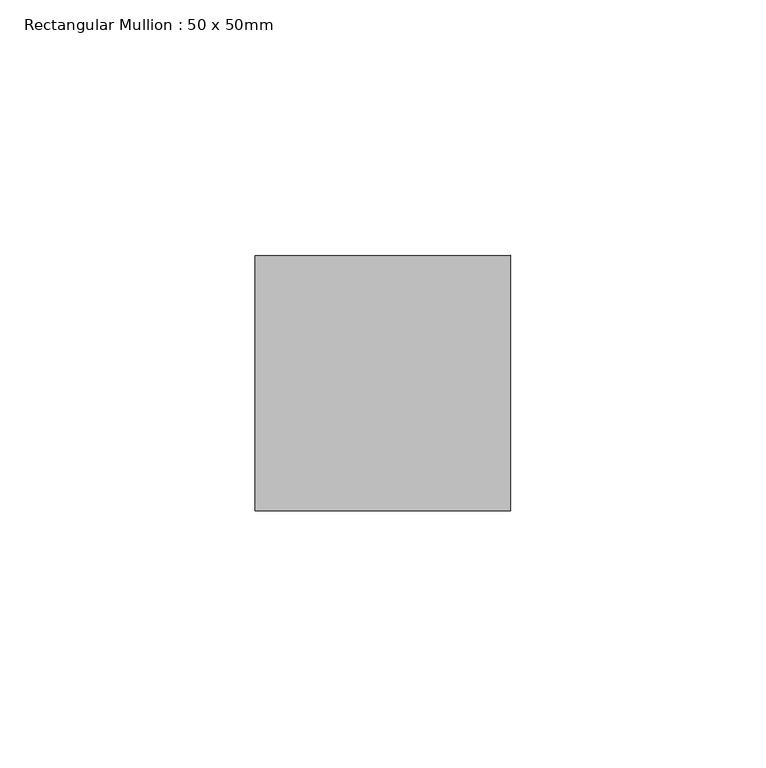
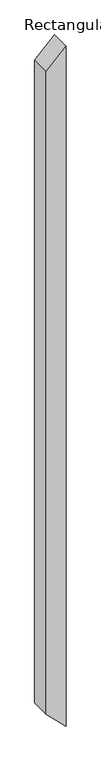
"""IFC4 building model written with IfcOpenShell, lengths in millimetres: member geometry, Rectangular Mullion : 50 x 50mm."""

from ifc_helpers import new_model, si_unit, frame, origin, place, context, project, spatial, polyline, outline, extrude, source, transform, mapped, element, save


def rectangular_mullion_50_x_50mm_cc18e0a2(model_context):
    return source(origin(), model_context, "Body", "SweptSolid", [
        extrude(outline(polyline([(0.0, 0.0), (-50.0000044, -50.0), (-1750.0002326, -50.0), (-1800.0002326, 0.0), (0.0, 0.0)])), frame((0.0, 0.0, 0.0), z_axis=(0.0, 1.0, 0.0), x_axis=(0.0, 0.0, 1.0)), (0.0, 0.0, 1.0), 50.0),
    ])


if __name__ == "__main__":
    model = new_model("IFC4")
    model_context = context("Model", 3, world=origin())
    ifc_project = project(units=[si_unit("LENGTHUNIT", "METRE", prefix="MILLI")], contexts=[model_context])
    site = spatial("IfcSite", under=ifc_project)
    building = spatial("IfcBuilding", under=site)
    placement = place(None, origin())
    rectangular_mullion_50_x_50mm_shape = rectangular_mullion_50_x_50mm_cc18e0a2(model_context)
    element("IfcMember", 1, ObjectType="Rectangular Mullion : 50 x 50mm", at=placement, inside=building, context=model_context, shape_type="MappedRepresentation", body=[
        mapped(rectangular_mullion_50_x_50mm_shape, transform((0.0, 0.0, 0.0), x_axis=(1.0, 0.0, 0.0), y_axis=(0.0, 1.0, 0.0), z_axis=(0.0, 0.0, 1.0))),
    ])
    save(model, "model.ifc")
